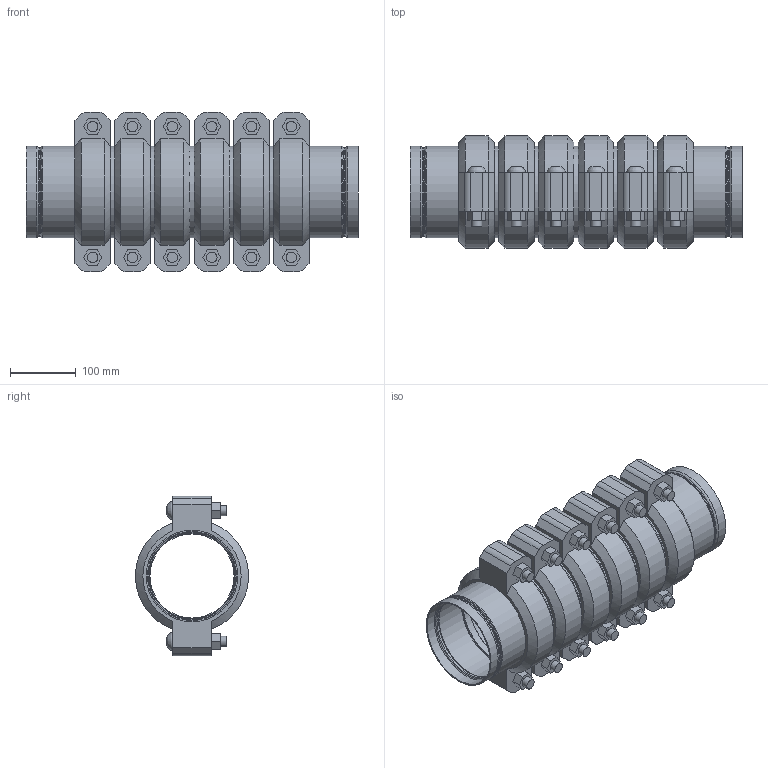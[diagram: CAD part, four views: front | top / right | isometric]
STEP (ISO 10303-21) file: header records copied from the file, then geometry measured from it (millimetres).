
FILE_DESCRIPTION(/* description */ ('VIC STRENGTHIN 100 EXPANSION JOINT 6 COUPLINGS COMPRESSED STYLE E155 (ST1)','CAx-IF Rec.Pracs.---Representation and Presentation of Product Manufacturing Information (PMI)---4.0---2014-10-13'),/* implementation_level */ '2;1');
FILE_NAME(/* name */ 'C:\Users\Vjadhav\AppData\Roaming\Autodesk\ApplicationPlugins\Victaulic.Temp\A634\Victaulic_SS-StrengThin 100_Expansion Joint_Compressed_6 Couplings_Style E155 (ST1)_05.0 (139.7) (125).stp',/* time_stamp */ '2021-07-23T12:33:51+05:00',/* author */ ('kkamble'),/* organization */ ('Victaulic'),/* preprocessor_version */ 'ST-DEVELOPER v17.2',/* originating_system */ 'Autodesk Inventor 2019',/* authorisation */ '');
FILE_SCHEMA (('AP242_MANAGED_MODEL_BASED_3D_ENGINEERING_MIM_LF { 1 0 10303 442 1 1 4 }'));
Length unit declared in the file: inch
Products named in the file (4): E155-05.0 (139.7); E494G-05.0 (139.7); Nipple-05.0 (139.7); 075-05.0 (139.7)
Assembly tree (13 placements, depth 2):
  E155-05.0 (139.7)
    E494G-05.0 (139.7)  x2
    Nipple-05.0 (139.7)  x5
    075-05.0 (139.7)  x6
Bounding box: 506.22 x 172.14 x 243.59 mm (x, y, z)
Volume: 4622799.8 mm3; surface area: 1056678.1 mm2
Topology: 13 solids, 25 shells, 446 faces, 1134 edges, 802 vertices
Faces by surface type: plane 246, cylinder 128, torus 32, cone 28, bspline 12
Full cylindrical faces by diameter (mm): 15.875 x24, 17.424 x12, 128.194 x5, 130.505 x2, 131.47 x2, 134.518 x2, 135.484 x12, 135.687 x6, 139.7 x27
Entity records: 3663 total; most frequent: DIRECTION 651, CARTESIAN_POINT 645, ORIENTED_EDGE 536, AXIS2_PLACEMENT_3D 277, EDGE_CURVE 268, VERTEX_POINT 193, CIRCLE 163, EDGE_LOOP 123
